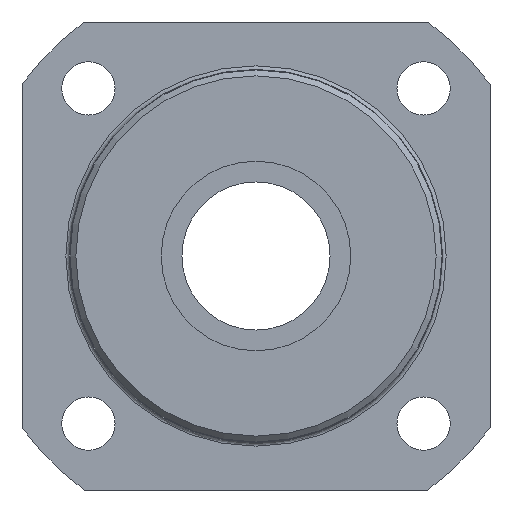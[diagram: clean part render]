
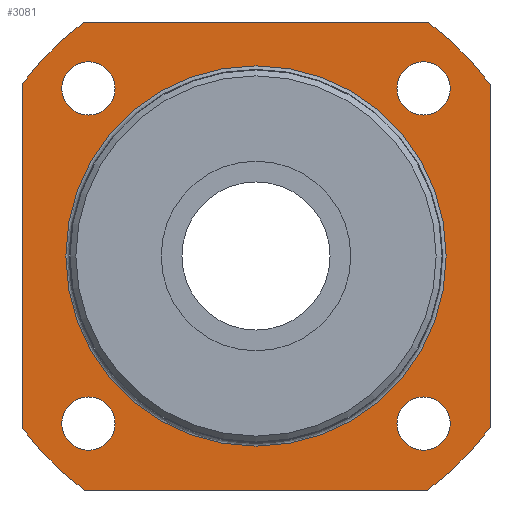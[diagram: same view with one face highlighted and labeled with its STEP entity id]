
A CAD part, left-side view. The second image highlights one B-rep face of the part: STEP entity #3081.
In plain terms, the highlighted planar face has unit normal (-1, 0, 0).
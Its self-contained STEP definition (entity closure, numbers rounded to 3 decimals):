
#1845=CARTESIAN_POINT('',(-27.,23.784,-28.284));
#1846=VERTEX_POINT('',#1845);
#1847=CARTESIAN_POINT('',(-27.,28.284,-28.284));
#1848=DIRECTION('',(1.0,0.0,0.0));
#1849=DIRECTION('',(0.0,1.0,0.0));
#1850=AXIS2_PLACEMENT_3D('',#1847,#1848,#1849);
#1851=CIRCLE('',#1850,4.5);
#1852=EDGE_CURVE('',#1846,#1846,#1851,.T.);
#1955=CARTESIAN_POINT('',(-27.,23.784,28.284));
#1956=VERTEX_POINT('',#1955);
#1957=CARTESIAN_POINT('',(-27.,28.284,28.284));
#1958=DIRECTION('',(1.0,0.0,0.0));
#1959=DIRECTION('',(0.0,1.0,0.0));
#1960=AXIS2_PLACEMENT_3D('',#1957,#1958,#1959);
#1961=CIRCLE('',#1960,4.5);
#1962=EDGE_CURVE('',#1956,#1956,#1961,.T.);
#2065=CARTESIAN_POINT('',(-27.,-32.784,28.284));
#2066=VERTEX_POINT('',#2065);
#2067=CARTESIAN_POINT('',(-27.,-28.284,28.284));
#2068=DIRECTION('',(1.0,0.0,0.0));
#2069=DIRECTION('',(0.0,1.0,0.0));
#2070=AXIS2_PLACEMENT_3D('',#2067,#2068,#2069);
#2071=CIRCLE('',#2070,4.5);
#2072=EDGE_CURVE('',#2066,#2066,#2071,.T.);
#2175=CARTESIAN_POINT('',(-27.,-32.784,-28.284));
#2176=VERTEX_POINT('',#2175);
#2177=CARTESIAN_POINT('',(-27.,-28.284,-28.284));
#2178=DIRECTION('',(1.0,0.0,0.0));
#2179=DIRECTION('',(0.0,1.0,0.0));
#2180=AXIS2_PLACEMENT_3D('',#2177,#2178,#2179);
#2181=CIRCLE('',#2180,4.5);
#2182=EDGE_CURVE('',#2176,#2176,#2181,.T.);
#2661=CARTESIAN_POINT('',(-27.,39.5,28.996));
#2662=VERTEX_POINT('',#2661);
#2663=CARTESIAN_POINT('',(-27.,39.5,-28.996));
#2664=VERTEX_POINT('',#2663);
#2665=CARTESIAN_POINT('',(-27.,39.5,28.996));
#2666=DIRECTION('',(0.0,0.0,-1.0));
#2667=VECTOR('',#2666,57.991);
#2668=LINE('',#2665,#2667);
#2669=EDGE_CURVE('',#2662,#2664,#2668,.T.);
#2701=CARTESIAN_POINT('',(-27.,-39.5,-28.996));
#2702=VERTEX_POINT('',#2701);
#2703=CARTESIAN_POINT('',(-27.,-39.5,28.996));
#2704=VERTEX_POINT('',#2703);
#2705=CARTESIAN_POINT('',(-27.,-39.5,-28.996));
#2706=DIRECTION('',(0.0,0.0,1.0));
#2707=VECTOR('',#2706,57.991);
#2708=LINE('',#2705,#2707);
#2709=EDGE_CURVE('',#2702,#2704,#2708,.T.);
#2741=CARTESIAN_POINT('',(-27.,28.996,-39.5));
#2742=VERTEX_POINT('',#2741);
#2743=CARTESIAN_POINT('',(-27.,-28.996,-39.5));
#2744=VERTEX_POINT('',#2743);
#2745=CARTESIAN_POINT('',(-27.,28.996,-39.5));
#2746=DIRECTION('',(0.0,-1.0,0.0));
#2747=VECTOR('',#2746,57.991);
#2748=LINE('',#2745,#2747);
#2749=EDGE_CURVE('',#2742,#2744,#2748,.T.);
#2781=CARTESIAN_POINT('',(-27.,-28.996,39.5));
#2782=VERTEX_POINT('',#2781);
#2783=CARTESIAN_POINT('',(-27.,28.996,39.5));
#2784=VERTEX_POINT('',#2783);
#2785=CARTESIAN_POINT('',(-27.,-28.996,39.5));
#2786=DIRECTION('',(0.0,1.0,0.0));
#2787=VECTOR('',#2786,57.991);
#2788=LINE('',#2785,#2787);
#2789=EDGE_CURVE('',#2782,#2784,#2788,.T.);
#2830=CARTESIAN_POINT('',(-27.,0.0,0.0));
#2831=DIRECTION('',(1.0,0.0,0.0));
#2832=DIRECTION('',(0.0,1.0,0.0));
#2833=AXIS2_PLACEMENT_3D('',#2830,#2831,#2832);
#2834=CIRCLE('',#2833,49.0);
#2835=EDGE_CURVE('',#2782,#2704,#2834,.T.);
#2846=CARTESIAN_POINT('',(-27.,0.0,0.0));
#2847=DIRECTION('',(1.0,0.0,0.0));
#2848=DIRECTION('',(0.0,1.0,0.0));
#2849=AXIS2_PLACEMENT_3D('',#2846,#2847,#2848);
#2850=CIRCLE('',#2849,49.0);
#2851=EDGE_CURVE('',#2662,#2784,#2850,.T.);
#2870=CARTESIAN_POINT('',(-27.,0.0,0.0));
#2871=DIRECTION('',(1.0,0.0,0.0));
#2872=DIRECTION('',(0.0,1.0,0.0));
#2873=AXIS2_PLACEMENT_3D('',#2870,#2871,#2872);
#2874=CIRCLE('',#2873,49.0);
#2875=EDGE_CURVE('',#2702,#2744,#2874,.T.);
#3030=CARTESIAN_POINT('',(-27.,32.1,0.0));
#3031=VERTEX_POINT('',#3030);
#3032=CARTESIAN_POINT('',(-27.,0.0,0.0));
#3033=DIRECTION('',(1.0,0.0,0.0));
#3034=DIRECTION('',(0.0,1.0,0.0));
#3035=AXIS2_PLACEMENT_3D('',#3032,#3033,#3034);
#3036=CIRCLE('',#3035,32.1);
#3037=EDGE_CURVE('',#3031,#3031,#3036,.T.);
#3045=CARTESIAN_POINT('',(-27.,40.55,0.0));
#3046=DIRECTION('',(-1.0,0.0,0.0));
#3047=DIRECTION('',(0.0,0.0,1.0));
#3048=AXIS2_PLACEMENT_3D('',#3045,#3046,#3047);
#3049=PLANE('',#3048);
#3050=ORIENTED_EDGE('',*,*,#2669,.T.);
#3051=CARTESIAN_POINT('',(-27.,0.0,0.0));
#3052=DIRECTION('',(1.0,0.0,0.0));
#3053=DIRECTION('',(0.0,1.0,0.0));
#3054=AXIS2_PLACEMENT_3D('',#3051,#3052,#3053);
#3055=CIRCLE('',#3054,49.0);
#3056=EDGE_CURVE('',#2742,#2664,#3055,.T.);
#3057=ORIENTED_EDGE('',*,*,#3056,.F.);
#3058=ORIENTED_EDGE('',*,*,#2749,.T.);
#3059=ORIENTED_EDGE('',*,*,#2875,.F.);
#3060=ORIENTED_EDGE('',*,*,#2709,.T.);
#3061=ORIENTED_EDGE('',*,*,#2835,.F.);
#3062=ORIENTED_EDGE('',*,*,#2789,.T.);
#3063=ORIENTED_EDGE('',*,*,#2851,.F.);
#3064=EDGE_LOOP('',(#3050,#3057,#3058,#3059,#3060,#3061,#3062,#3063));
#3065=FACE_OUTER_BOUND('',#3064,.T.);
#3066=ORIENTED_EDGE('',*,*,#1852,.T.);
#3067=EDGE_LOOP('',(#3066));
#3068=FACE_BOUND('',#3067,.T.);
#3069=ORIENTED_EDGE('',*,*,#1962,.T.);
#3070=EDGE_LOOP('',(#3069));
#3071=FACE_BOUND('',#3070,.T.);
#3072=ORIENTED_EDGE('',*,*,#2072,.T.);
#3073=EDGE_LOOP('',(#3072));
#3074=FACE_BOUND('',#3073,.T.);
#3075=ORIENTED_EDGE('',*,*,#2182,.T.);
#3076=EDGE_LOOP('',(#3075));
#3077=FACE_BOUND('',#3076,.T.);
#3078=ORIENTED_EDGE('',*,*,#3037,.T.);
#3079=EDGE_LOOP('',(#3078));
#3080=FACE_BOUND('',#3079,.T.);
#3081=ADVANCED_FACE('',(#3065,#3068,#3071,#3074,#3077,#3080),#3049,.T.);
